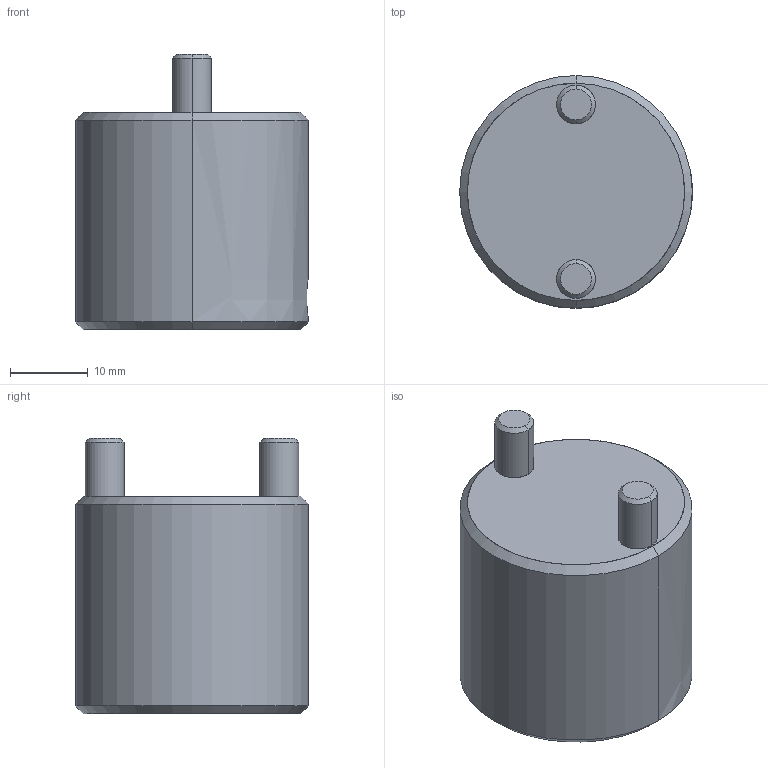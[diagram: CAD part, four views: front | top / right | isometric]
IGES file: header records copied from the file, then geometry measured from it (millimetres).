
Start section: START RECORD GO HERE.
Global section: file name: CS2016.igs; native system: DASSAULT SYSTEMES CATIA V5 R20 - www.3ds.com; preprocessor: CATIA Version 5 Release 20 ; author: r.borello; organization: CFTORINO; date: 20190624.105119; units: millimetre
Bounding box: 30 x 30 x 35.5 mm (x, y, z)
Surface area: 5437.5 mm2 (no closed solid volume)
Topology: 0 solids, 0 shells, 23 faces, 94 edges, 94 vertices
Faces by surface type: revolution 18, plane 5
